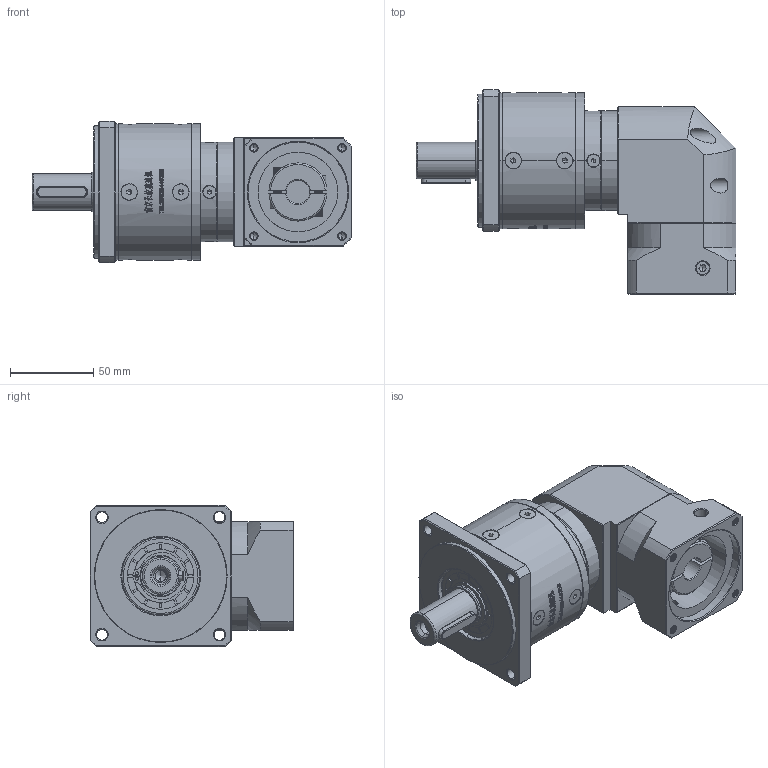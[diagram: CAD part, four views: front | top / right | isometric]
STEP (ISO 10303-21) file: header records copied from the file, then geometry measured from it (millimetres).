
FILE_DESCRIPTION (( 'STEP AP214' ), '1' );
FILE_NAME ('ZFR80-D22-L2-14-60-75-M5.step', '2022-05-08T14:54:10', ( '' ), ( 'Microsoft' ), 'SwSTEP 2.0', 'SolidWorks 2016', '' );
FILE_SCHEMA (( 'AUTOMOTIVE_DESIGN' ));
Length unit declared in the file: millimetre
Products named in the file (1): ZFR80-D22-L2-14-60-75-M5
Bounding box: 192.5 x 122.7 x 85 mm (x, y, z)
Volume: 802028.1 mm3; surface area: 104241.8 mm2
Topology: 17 solids, 18 shells, 3077 faces, 8207 edges, 5287 vertices
Faces by surface type: plane 1601, bspline 608, cylinder 468, cone 380, torus 20
Entity records: 165742 total; most frequent: CARTESIAN_POINT 60525, ORIENTED_EDGE 16322, DIRECTION 12446, EDGE_CURVE 8161, VERTEX_POINT 5287, LINE 4988, VECTOR 4988, AXIS2_PLACEMENT_3D 3729
